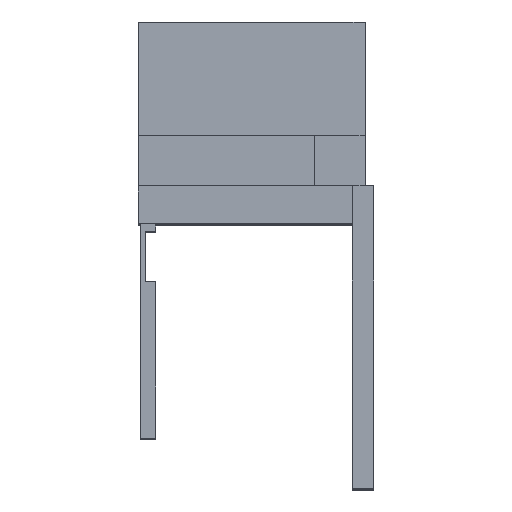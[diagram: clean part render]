
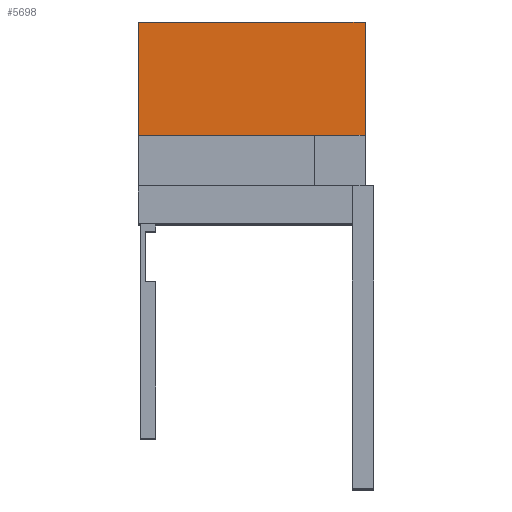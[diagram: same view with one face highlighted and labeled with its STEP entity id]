
A CAD part, top view. The second image highlights one B-rep face of the part: STEP entity #5698.
In plain terms, the highlighted planar face has unit normal (0, 0, 1).
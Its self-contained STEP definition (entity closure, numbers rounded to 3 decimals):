
#32 = PLANE('',#33);
#33 = AXIS2_PLACEMENT_3D('',#34,#35,#36);
#34 = CARTESIAN_POINT('',(46.5,-3.6,13.8));
#35 = DIRECTION('',(-1.,0.,0.));
#36 = DIRECTION('',(0.,0.,1.));
#1137 = VERTEX_POINT('',#1138);
#1138 = CARTESIAN_POINT('',(46.5,-3.6,31.5));
#1152 = PLANE('',#1153);
#1153 = AXIS2_PLACEMENT_3D('',#1154,#1155,#1156);
#1154 = CARTESIAN_POINT('',(46.5,-3.6,13.8));
#1155 = DIRECTION('',(0.,-1.,0.));
#1156 = DIRECTION('',(0.,0.,1.));
#1164 = EDGE_CURVE('',#1165,#1137,#1167,.T.);
#1165 = VERTEX_POINT('',#1166);
#1166 = CARTESIAN_POINT('',(46.5,0.9,31.5));
#1167 = SURFACE_CURVE('',#1168,(#1172,#1179),.PCURVE_S1.);
#1168 = LINE('',#1169,#1170);
#1169 = CARTESIAN_POINT('',(46.5,0.9,31.5));
#1170 = VECTOR('',#1171,1.);
#1171 = DIRECTION('',(0.,-1.,0.));
#1172 = PCURVE('',#32,#1173);
#1173 = DEFINITIONAL_REPRESENTATION('',(#1174),#1178);
#1174 = LINE('',#1175,#1176);
#1175 = CARTESIAN_POINT('',(17.7,4.5));
#1176 = VECTOR('',#1177,1.);
#1177 = DIRECTION('',(0.,-1.));
#1178 = ( GEOMETRIC_REPRESENTATION_CONTEXT(2) 
PARAMETRIC_REPRESENTATION_CONTEXT() REPRESENTATION_CONTEXT('2D SPACE',''
  ) );
#1179 = PCURVE('',#1180,#1185);
#1180 = PLANE('',#1181);
#1181 = AXIS2_PLACEMENT_3D('',#1182,#1183,#1184);
#1182 = CARTESIAN_POINT('',(46.5,0.9,31.5));
#1183 = DIRECTION('',(0.,0.,1.));
#1184 = DIRECTION('',(-1.,0.,0.));
#1185 = DEFINITIONAL_REPRESENTATION('',(#1186),#1190);
#1186 = LINE('',#1187,#1188);
#1187 = CARTESIAN_POINT('',(0.,0.));
#1188 = VECTOR('',#1189,1.);
#1189 = DIRECTION('',(0.,1.));
#1190 = ( GEOMETRIC_REPRESENTATION_CONTEXT(2) 
PARAMETRIC_REPRESENTATION_CONTEXT() REPRESENTATION_CONTEXT('2D SPACE',''
  ) );
#1208 = PLANE('',#1209);
#1209 = AXIS2_PLACEMENT_3D('',#1210,#1211,#1212);
#1210 = CARTESIAN_POINT('',(46.5,0.9,24.5));
#1211 = DIRECTION('',(0.,-1.,0.));
#1212 = DIRECTION('',(0.,0.,1.));
#1401 = PLANE('',#1402);
#1402 = AXIS2_PLACEMENT_3D('',#1403,#1404,#1405);
#1403 = CARTESIAN_POINT('',(37.5,-3.6,13.8));
#1404 = DIRECTION('',(-1.,0.,0.));
#1405 = DIRECTION('',(0.,0.,1.));
#5630 = VERTEX_POINT('',#5631);
#5631 = CARTESIAN_POINT('',(37.5,-3.6,31.5));
#5652 = EDGE_CURVE('',#1137,#5630,#5653,.T.);
#5653 = SURFACE_CURVE('',#5654,(#5658,#5665),.PCURVE_S1.);
#5654 = LINE('',#5655,#5656);
#5655 = CARTESIAN_POINT('',(46.5,-3.6,31.5));
#5656 = VECTOR('',#5657,1.);
#5657 = DIRECTION('',(-1.,0.,0.));
#5658 = PCURVE('',#1152,#5659);
#5659 = DEFINITIONAL_REPRESENTATION('',(#5660),#5664);
#5660 = LINE('',#5661,#5662);
#5661 = CARTESIAN_POINT('',(17.7,0.));
#5662 = VECTOR('',#5663,1.);
#5663 = DIRECTION('',(0.,1.));
#5664 = ( GEOMETRIC_REPRESENTATION_CONTEXT(2) 
PARAMETRIC_REPRESENTATION_CONTEXT() REPRESENTATION_CONTEXT('2D SPACE',''
  ) );
#5665 = PCURVE('',#1180,#5666);
#5666 = DEFINITIONAL_REPRESENTATION('',(#5667),#5671);
#5667 = LINE('',#5668,#5669);
#5668 = CARTESIAN_POINT('',(0.,4.5));
#5669 = VECTOR('',#5670,1.);
#5670 = DIRECTION('',(1.,0.));
#5671 = ( GEOMETRIC_REPRESENTATION_CONTEXT(2) 
PARAMETRIC_REPRESENTATION_CONTEXT() REPRESENTATION_CONTEXT('2D SPACE',''
  ) );
#5698 = ADVANCED_FACE('',(#5699),#1180,.T.);
#5699 = FACE_BOUND('',#5700,.T.);
#5700 = EDGE_LOOP('',(#5701,#5702,#5725,#5746));
#5701 = ORIENTED_EDGE('',*,*,#1164,.F.);
#5702 = ORIENTED_EDGE('',*,*,#5703,.T.);
#5703 = EDGE_CURVE('',#1165,#5704,#5706,.T.);
#5704 = VERTEX_POINT('',#5705);
#5705 = CARTESIAN_POINT('',(37.5,0.9,31.5));
#5706 = SURFACE_CURVE('',#5707,(#5711,#5718),.PCURVE_S1.);
#5707 = LINE('',#5708,#5709);
#5708 = CARTESIAN_POINT('',(46.5,0.9,31.5));
#5709 = VECTOR('',#5710,1.);
#5710 = DIRECTION('',(-1.,0.,0.));
#5711 = PCURVE('',#1180,#5712);
#5712 = DEFINITIONAL_REPRESENTATION('',(#5713),#5717);
#5713 = LINE('',#5714,#5715);
#5714 = CARTESIAN_POINT('',(0.,0.));
#5715 = VECTOR('',#5716,1.);
#5716 = DIRECTION('',(1.,0.));
#5717 = ( GEOMETRIC_REPRESENTATION_CONTEXT(2) 
PARAMETRIC_REPRESENTATION_CONTEXT() REPRESENTATION_CONTEXT('2D SPACE',''
  ) );
#5718 = PCURVE('',#1208,#5719);
#5719 = DEFINITIONAL_REPRESENTATION('',(#5720),#5724);
#5720 = LINE('',#5721,#5722);
#5721 = CARTESIAN_POINT('',(7.,0.));
#5722 = VECTOR('',#5723,1.);
#5723 = DIRECTION('',(0.,1.));
#5724 = ( GEOMETRIC_REPRESENTATION_CONTEXT(2) 
PARAMETRIC_REPRESENTATION_CONTEXT() REPRESENTATION_CONTEXT('2D SPACE',''
  ) );
#5725 = ORIENTED_EDGE('',*,*,#5726,.T.);
#5726 = EDGE_CURVE('',#5704,#5630,#5727,.T.);
#5727 = SURFACE_CURVE('',#5728,(#5732,#5739),.PCURVE_S1.);
#5728 = LINE('',#5729,#5730);
#5729 = CARTESIAN_POINT('',(37.5,0.9,31.5));
#5730 = VECTOR('',#5731,1.);
#5731 = DIRECTION('',(0.,-1.,0.));
#5732 = PCURVE('',#1180,#5733);
#5733 = DEFINITIONAL_REPRESENTATION('',(#5734),#5738);
#5734 = LINE('',#5735,#5736);
#5735 = CARTESIAN_POINT('',(9.,0.));
#5736 = VECTOR('',#5737,1.);
#5737 = DIRECTION('',(0.,1.));
#5738 = ( GEOMETRIC_REPRESENTATION_CONTEXT(2) 
PARAMETRIC_REPRESENTATION_CONTEXT() REPRESENTATION_CONTEXT('2D SPACE',''
  ) );
#5739 = PCURVE('',#1401,#5740);
#5740 = DEFINITIONAL_REPRESENTATION('',(#5741),#5745);
#5741 = LINE('',#5742,#5743);
#5742 = CARTESIAN_POINT('',(17.7,4.5));
#5743 = VECTOR('',#5744,1.);
#5744 = DIRECTION('',(0.,-1.));
#5745 = ( GEOMETRIC_REPRESENTATION_CONTEXT(2) 
PARAMETRIC_REPRESENTATION_CONTEXT() REPRESENTATION_CONTEXT('2D SPACE',''
  ) );
#5746 = ORIENTED_EDGE('',*,*,#5652,.F.);
